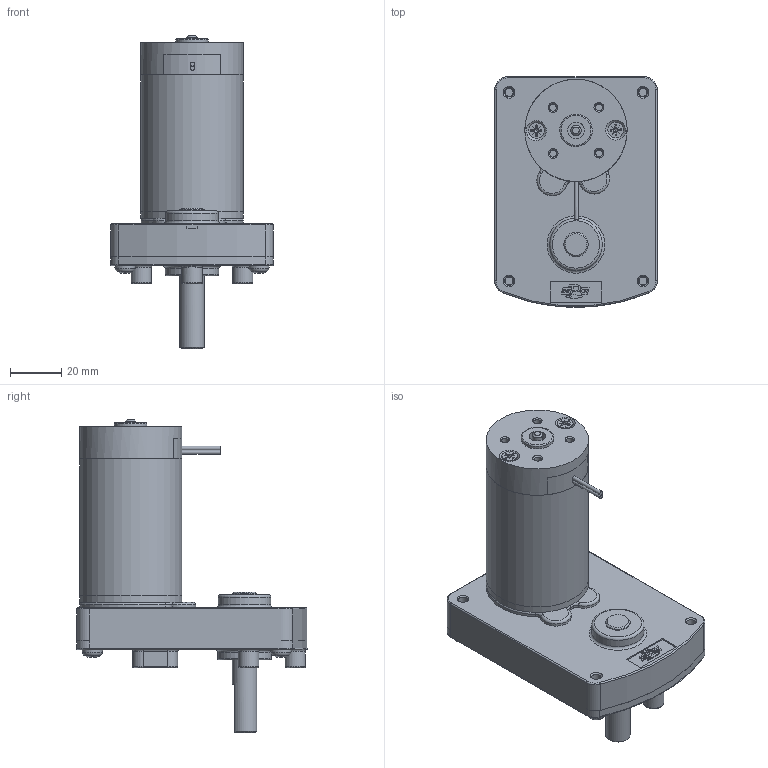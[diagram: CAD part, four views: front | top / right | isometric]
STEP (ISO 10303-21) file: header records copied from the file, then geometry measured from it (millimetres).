
FILE_DESCRIPTION(/* description */ (''),/* implementation_level */ '2;1');
FILE_NAME(/* name */ 'C:\Users\byjeong\Desktop\3D도면\SR45BL.stp',/* time_stamp */ '2015-03-31T15:02:09+09:00',/* author */ ('byjeong'),/* organization */ (''),/* preprocessor_version */ 'ST-DEVELOPER v15.6',/* originating_system */ 'Autodesk Inventor 2015',/* authorisation */ '');
FILE_SCHEMA (('AUTOMOTIVE_DESIGN { 1 0 10303 214 3 1 1 }'));
Length unit declared in the file: millimetre
Products named in the file (10): SR BOX ASSY; RM4TYPE_FRONT_HOUSING_; RM4TYPE_PIPE_HOUSING_pi40XL53.5; RM45TYPE_SHAFT; AS 1427 Z - 미터 M3.5 x 5; RM4TYPE_BRUSH_BRAKET_LEAD; RM4TYPE_REAR_HOUSING; REAR_HOUSING__ASS'Y_LEAD; RM45ㅁBL; 조립품2
Bounding box: 63.5 x 90.13 x 122.47 mm (x, y, z)
Volume: 71241.9 mm3; surface area: 59637.4 mm2
Topology: 11 solids, 20 shells, 629 faces, 1527 edges, 971 vertices
Faces by surface type: plane 269, cylinder 159, cone 128, torus 68, sphere 4, bspline 1
Full cylindrical faces by diameter (mm): 1.6 x2, 2.5 x1, 2.7 x4, 2.8 x4, 3 x3, 3.132 x2, 3.4 x7, 3.5 x2, 3.571 x4, 3.6 x6, 3.7 x2, 3.969 x1, 4 x8, 4.4 x6, 4.45 x1, 5 x1, 6.1 x2, 6.5 x1, 6.65 x1, 8 x3, 9.525 x2, 9.528 x1, 9.565 x2, 12.7 x3, 14.3 x3, 16.6 x1, 17.6 x1, 20.5 x1, 21 x1, 23 x1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
Entity records: 17239 total; most frequent: CARTESIAN_POINT 4040, DIRECTION 2826, ORIENTED_EDGE 2450, EDGE_CURVE 1220, AXIS2_PLACEMENT_3D 1175, VERTEX_POINT 863, EDGE_LOOP 826, FACE_OUTER_BOUND 588
